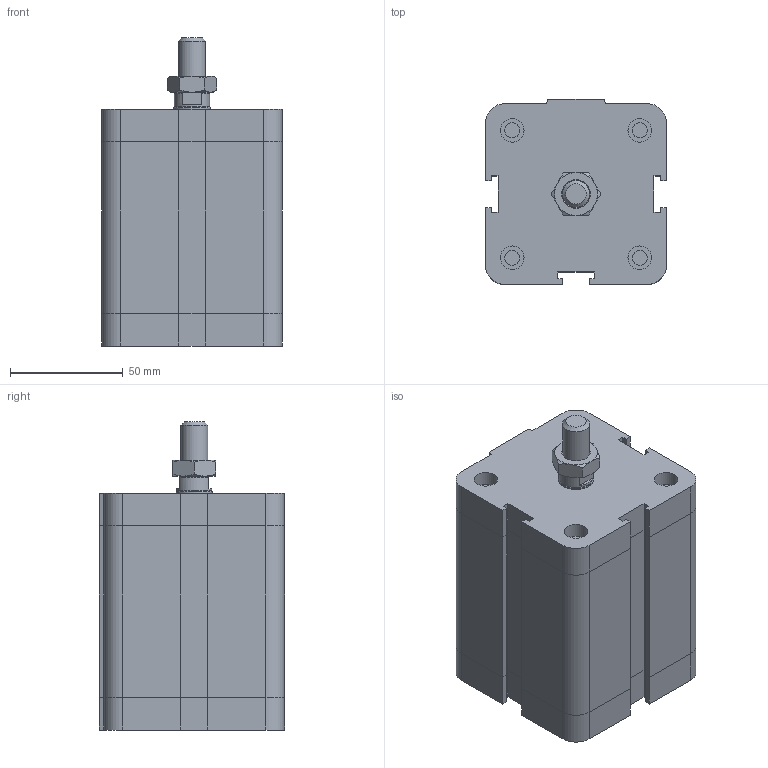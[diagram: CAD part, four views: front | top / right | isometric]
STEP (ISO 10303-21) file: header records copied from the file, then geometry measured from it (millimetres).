
FILE_DESCRIPTION((''),'2;1');
FILE_NAME('I:\Area Tecnica\Disegni\VARIE-3D\Componenti\EUROPE\15##_###_####_02_#\1561_63_0055_02_1.stp','2008-12-19T16:06:00',('rivolro1'),(''),'Autodesk Inventor 2009','Autodesk Inventor 2009','');
FILE_SCHEMA(('AUTOMOTIVE_DESIGN { 1 0 10303 214 1 1 1 1 }'));
Length unit declared in the file: millimetre
Products named in the file (4): 1561_63_0055_02_1; 1561_63_0055_01_1_C; 1561_63_0055_02_1_S; DBFM12
Assembly tree (3 placements, depth 2):
  1561_63_0055_02_1
    1561_63_0055_01_1_C
    1561_63_0055_02_1_S
    DBFM12
Bounding box: 80 x 82 x 136.5 mm (x, y, z)
Volume: 642903 mm3; surface area: 65429.3 mm2
Topology: 3 solids, 3 shells, 187 faces, 401 edges, 240 vertices
Faces by surface type: plane 121, bspline 24, cylinder 24, cone 18
Full cylindrical faces by diameter (mm): 6.647 x4, 10.5 x4, 10.8 x1, 12 x1, 15.6 x1, 16 x1
Entity records: 5080 total; most frequent: CARTESIAN_POINT 1096, DIRECTION 758, ORIENTED_EDGE 724, EDGE_CURVE 362, AXIS2_PLACEMENT_3D 254, VECTOR 250, LINE 250, EDGE_LOOP 238
